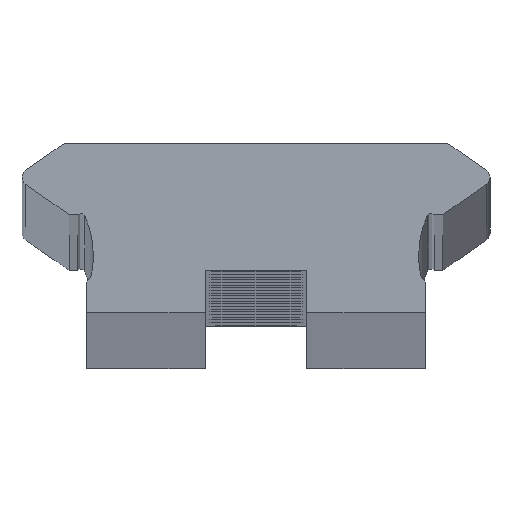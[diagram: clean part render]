
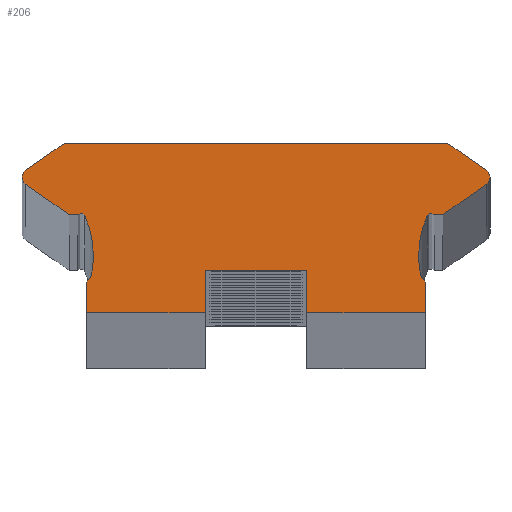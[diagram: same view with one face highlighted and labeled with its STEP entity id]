
A CAD part, top view. The second image highlights one B-rep face of the part: STEP entity #206.
In plain terms, the highlighted planar face has unit normal (0, 0, 1).
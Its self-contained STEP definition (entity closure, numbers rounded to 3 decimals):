
#206=ADVANCED_FACE('',(#534),#535,.T.);
#534=FACE_OUTER_BOUND('',#863,.T.);
#535=PLANE('',#864);
#863=EDGE_LOOP('',(#1868,#1869,#1870,#1871,#1872,#1873,#1874,#1875,#1876,#1877,#1878,#1879,#1880,#1881,#1882,#1883,#1884,#1885,#1886,#1887,#1888,#1889,#1890,#1891,#1892,#1893));
#864=AXIS2_PLACEMENT_3D('',#1894,#1895,#1896);
#1868=ORIENTED_EDGE('',*,*,#2194,.F.);
#1869=ORIENTED_EDGE('',*,*,#2254,.F.);
#1870=ORIENTED_EDGE('',*,*,#2251,.F.);
#1871=ORIENTED_EDGE('',*,*,#1929,.F.);
#1872=ORIENTED_EDGE('',*,*,#2249,.F.);
#1873=ORIENTED_EDGE('',*,*,#2246,.F.);
#1874=ORIENTED_EDGE('',*,*,#2243,.F.);
#1875=ORIENTED_EDGE('',*,*,#1931,.F.);
#1876=ORIENTED_EDGE('',*,*,#2242,.F.);
#1877=ORIENTED_EDGE('',*,*,#2238,.F.);
#1878=ORIENTED_EDGE('',*,*,#2235,.F.);
#1879=ORIENTED_EDGE('',*,*,#2232,.F.);
#1880=ORIENTED_EDGE('',*,*,#2229,.F.);
#1881=ORIENTED_EDGE('',*,*,#1937,.F.);
#1882=ORIENTED_EDGE('',*,*,#2227,.F.);
#1883=ORIENTED_EDGE('',*,*,#2224,.F.);
#1884=ORIENTED_EDGE('',*,*,#2221,.F.);
#1885=ORIENTED_EDGE('',*,*,#2218,.F.);
#1886=ORIENTED_EDGE('',*,*,#2215,.F.);
#1887=ORIENTED_EDGE('',*,*,#2212,.F.);
#1888=ORIENTED_EDGE('',*,*,#2209,.F.);
#1889=ORIENTED_EDGE('',*,*,#2206,.F.);
#1890=ORIENTED_EDGE('',*,*,#2203,.F.);
#1891=ORIENTED_EDGE('',*,*,#1939,.F.);
#1892=ORIENTED_EDGE('',*,*,#2202,.F.);
#1893=ORIENTED_EDGE('',*,*,#2198,.F.);
#1894=CARTESIAN_POINT('',(0.,5.343,1886.0));
#1895=DIRECTION('',(0.0,0.0,1.0));
#1896=DIRECTION('',(1.0,0.0,0.0));
#1929=EDGE_CURVE('',#2261,#2257,#2263,.T.);
#1931=EDGE_CURVE('',#2264,#2267,#2268,.T.);
#1937=EDGE_CURVE('',#2277,#2273,#2279,.T.);
#1939=EDGE_CURVE('',#2280,#2283,#2284,.T.);
#2194=EDGE_CURVE('',#2708,#2709,#2710,.T.);
#2198=EDGE_CURVE('',#2709,#2716,#2717,.T.);
#2202=EDGE_CURVE('',#2716,#2280,#2722,.T.);
#2203=EDGE_CURVE('',#2283,#2723,#2724,.T.);
#2206=EDGE_CURVE('',#2723,#2728,#2729,.T.);
#2209=EDGE_CURVE('',#2728,#2733,#2734,.T.);
#2212=EDGE_CURVE('',#2733,#2738,#2739,.T.);
#2215=EDGE_CURVE('',#2738,#2743,#2744,.T.);
#2218=EDGE_CURVE('',#2743,#2748,#2749,.T.);
#2221=EDGE_CURVE('',#2748,#2753,#2754,.T.);
#2224=EDGE_CURVE('',#2753,#2758,#2759,.T.);
#2227=EDGE_CURVE('',#2758,#2277,#2763,.T.);
#2229=EDGE_CURVE('',#2273,#2765,#2766,.T.);
#2232=EDGE_CURVE('',#2765,#2770,#2771,.T.);
#2235=EDGE_CURVE('',#2770,#2775,#2776,.T.);
#2238=EDGE_CURVE('',#2775,#2780,#2781,.T.);
#2242=EDGE_CURVE('',#2780,#2264,#2786,.T.);
#2243=EDGE_CURVE('',#2267,#2787,#2788,.T.);
#2246=EDGE_CURVE('',#2787,#2792,#2793,.T.);
#2249=EDGE_CURVE('',#2792,#2261,#2797,.T.);
#2251=EDGE_CURVE('',#2257,#2799,#2800,.T.);
#2254=EDGE_CURVE('',#2799,#2708,#2804,.T.);
#2257=VERTEX_POINT('',#2807);
#2261=VERTEX_POINT('',#2812);
#2263=CIRCLE('',#2815,0.5);
#2264=VERTEX_POINT('',#2816);
#2267=VERTEX_POINT('',#2820);
#2268=CIRCLE('',#2821,0.5);
#2273=VERTEX_POINT('',#2827);
#2277=VERTEX_POINT('',#2832);
#2279=CIRCLE('',#2835,5.653);
#2280=VERTEX_POINT('',#2836);
#2283=VERTEX_POINT('',#2840);
#2284=CIRCLE('',#2841,5.653);
#2708=VERTEX_POINT('',#3350);
#2709=VERTEX_POINT('',#3351);
#2710=LINE('',#3352,#3353);
#2716=VERTEX_POINT('',#3362);
#2717=CIRCLE('',#3363,0.253);
#2722=CIRCLE('',#3369,5.653);
#2723=VERTEX_POINT('',#3370);
#2724=CIRCLE('',#3371,0.886);
#2728=VERTEX_POINT('',#3376);
#2729=LINE('',#3377,#3378);
#2733=VERTEX_POINT('',#3384);
#2734=LINE('',#3385,#3386);
#2738=VERTEX_POINT('',#3392);
#2739=LINE('',#3393,#3394);
#2743=VERTEX_POINT('',#3400);
#2744=LINE('',#3401,#3402);
#2748=VERTEX_POINT('',#3408);
#2749=LINE('',#3409,#3410);
#2753=VERTEX_POINT('',#3416);
#2754=LINE('',#3417,#3418);
#2758=VERTEX_POINT('',#3424);
#2759=LINE('',#3425,#3426);
#2763=CIRCLE('',#3432,0.886);
#2765=VERTEX_POINT('',#3434);
#2766=CIRCLE('',#3435,5.653);
#2770=VERTEX_POINT('',#3440);
#2771=CIRCLE('',#3441,0.253);
#2775=VERTEX_POINT('',#3446);
#2776=LINE('',#3447,#3448);
#2780=VERTEX_POINT('',#3454);
#2781=LINE('',#3455,#3456);
#2786=CIRCLE('',#3463,0.5);
#2787=VERTEX_POINT('',#3464);
#2788=LINE('',#3465,#3466);
#2792=VERTEX_POINT('',#3472);
#2793=LINE('',#3473,#3474);
#2797=LINE('',#3480,#3481);
#2799=VERTEX_POINT('',#3484);
#2800=CIRCLE('',#3485,0.5);
#2804=LINE('',#3490,#3491);
#2807=CARTESIAN_POINT('',(13.813,8.,1886.0));
#2812=CARTESIAN_POINT('',(13.6,8.41,1886.0));
#2815=AXIS2_PLACEMENT_3D('',#3499,#3500,#3501);
#2816=CARTESIAN_POINT('',(-13.813,8.,1886.0));
#2820=CARTESIAN_POINT('',(-13.6,8.41,1886.0));
#2821=AXIS2_PLACEMENT_3D('',#3503,#3504,#3505);
#2827=CARTESIAN_POINT('',(-9.6,3.398,1886.0));
#2832=CARTESIAN_POINT('',(-9.701,2.335,1886.0));
#2835=AXIS2_PLACEMENT_3D('',#3515,#3516,#3517);
#2836=CARTESIAN_POINT('',(9.6,3.398,1886.0));
#2840=CARTESIAN_POINT('',(9.701,2.335,1886.0));
#2841=AXIS2_PLACEMENT_3D('',#3519,#3520,#3521);
#3350=CARTESIAN_POINT('',(11.029,5.79,1886.0));
#3351=CARTESIAN_POINT('',(10.525,5.79,1886.0));
#3352=CARTESIAN_POINT('',(10.525,5.79,1886.0));
#3353=VECTOR('',#4114,1.0);
#3362=CARTESIAN_POINT('',(10.108,5.741,1886.0));
#3363=AXIS2_PLACEMENT_3D('',#4118,#4119,#4120);
#3369=AXIS2_PLACEMENT_3D('',#4128,#4129,#4130);
#3370=CARTESIAN_POINT('',(10.0,1.809,1886.0));
#3371=AXIS2_PLACEMENT_3D('',#4131,#4132,#4133);
#3376=CARTESIAN_POINT('',(10.0,0.,1886.0));
#3377=CARTESIAN_POINT('',(10.0,0.,1886.0));
#3378=VECTOR('',#4138,1.0);
#3384=CARTESIAN_POINT('',(3.0,0.0,1886.0));
#3385=CARTESIAN_POINT('',(3.0,0.0,1886.0));
#3386=VECTOR('',#4141,1.0);
#3392=CARTESIAN_POINT('',(3.0,2.5,1886.0));
#3393=CARTESIAN_POINT('',(3.0,2.5,1886.0));
#3394=VECTOR('',#4144,1.0);
#3400=CARTESIAN_POINT('',(-3.0,2.5,1886.0));
#3401=CARTESIAN_POINT('',(-3.0,2.5,1886.0));
#3402=VECTOR('',#4147,1.0);
#3408=CARTESIAN_POINT('',(-3.0,0.0,1886.0));
#3409=CARTESIAN_POINT('',(-3.0,0.0,1886.0));
#3410=VECTOR('',#4150,1.0);
#3416=CARTESIAN_POINT('',(-10.0,0.,1886.0));
#3417=CARTESIAN_POINT('',(-10.0,0.,1886.0));
#3418=VECTOR('',#4153,1.0);
#3424=CARTESIAN_POINT('',(-10.0,1.809,1886.0));
#3425=CARTESIAN_POINT('',(-10.0,1.809,1886.0));
#3426=VECTOR('',#4156,1.0);
#3432=AXIS2_PLACEMENT_3D('',#4159,#4160,#4161);
#3434=CARTESIAN_POINT('',(-10.108,5.741,1886.0));
#3435=AXIS2_PLACEMENT_3D('',#4165,#4166,#4167);
#3440=CARTESIAN_POINT('',(-10.525,5.79,1886.0));
#3441=AXIS2_PLACEMENT_3D('',#4172,#4173,#4174);
#3446=CARTESIAN_POINT('',(-11.029,5.79,1886.0));
#3447=CARTESIAN_POINT('',(-11.029,5.79,1886.0));
#3448=VECTOR('',#4179,1.0);
#3454=CARTESIAN_POINT('',(-13.6,7.59,1886.0));
#3455=CARTESIAN_POINT('',(-13.6,7.59,1886.0));
#3456=VECTOR('',#4182,1.0);
#3463=AXIS2_PLACEMENT_3D('',#4188,#4189,#4190);
#3464=CARTESIAN_POINT('',(-11.329,10.0,1886.0));
#3465=CARTESIAN_POINT('',(-11.329,10.0,1886.0));
#3466=VECTOR('',#4191,1.0);
#3472=CARTESIAN_POINT('',(11.329,10.0,1886.0));
#3473=CARTESIAN_POINT('',(11.329,10.0,1886.0));
#3474=VECTOR('',#4194,1.0);
#3480=CARTESIAN_POINT('',(13.6,8.41,1886.0));
#3481=VECTOR('',#4197,1.0);
#3484=CARTESIAN_POINT('',(13.6,7.59,1886.0));
#3485=AXIS2_PLACEMENT_3D('',#4199,#4200,#4201);
#3490=CARTESIAN_POINT('',(11.029,5.79,1886.0));
#3491=VECTOR('',#4206,1.0);
#3499=CARTESIAN_POINT('',(13.313,8.,1886.0));
#3500=DIRECTION('',(0.0,0.0,-1.0));
#3501=DIRECTION('',(1.0,0.0,0.0));
#3503=CARTESIAN_POINT('',(-13.313,8.,1886.0));
#3504=DIRECTION('',(0.0,0.0,-1.0));
#3505=DIRECTION('',(1.0,0.0,0.0));
#3515=CARTESIAN_POINT('',(-15.254,3.398,1886.0));
#3516=DIRECTION('',(0.0,0.0,1.0));
#3517=DIRECTION('',(1.0,0.0,0.0));
#3519=CARTESIAN_POINT('',(15.254,3.398,1886.0));
#3520=DIRECTION('',(0.0,0.0,1.0));
#3521=DIRECTION('',(1.0,0.0,0.0));
#4114=DIRECTION('',(-1.0,0.,0.0));
#4118=CARTESIAN_POINT('',(10.333,5.626,1886.0));
#4119=DIRECTION('',(0.0,0.0,1.0));
#4120=DIRECTION('',(1.0,0.0,0.0));
#4128=CARTESIAN_POINT('',(15.254,3.398,1886.0));
#4129=DIRECTION('',(0.0,0.0,1.0));
#4130=DIRECTION('',(1.0,0.0,0.0));
#4131=CARTESIAN_POINT('',(10.574,2.483,1886.0));
#4132=DIRECTION('',(0.0,0.0,1.0));
#4133=DIRECTION('',(1.0,0.0,0.0));
#4138=DIRECTION('',(-0.0,-1.0,-0.0));
#4141=DIRECTION('',(-1.0,0.,0.0));
#4144=DIRECTION('',(0.,1.0,0.0));
#4147=DIRECTION('',(-1.0,-0.0,-0.0));
#4150=DIRECTION('',(0.,-1.0,-0.0));
#4153=DIRECTION('',(-1.0,0.,-0.0));
#4156=DIRECTION('',(0.0,1.0,0.0));
#4159=CARTESIAN_POINT('',(-10.574,2.483,1886.0));
#4160=DIRECTION('',(0.0,0.0,1.0));
#4161=DIRECTION('',(1.0,0.0,0.0));
#4165=CARTESIAN_POINT('',(-15.254,3.398,1886.0));
#4166=DIRECTION('',(0.0,0.0,1.0));
#4167=DIRECTION('',(1.0,0.0,0.0));
#4172=CARTESIAN_POINT('',(-10.333,5.626,1886.0));
#4173=DIRECTION('',(0.0,0.0,1.0));
#4174=DIRECTION('',(1.0,0.0,0.0));
#4179=DIRECTION('',(-1.0,0.,-0.0));
#4182=DIRECTION('',(-0.819,0.574,0.0));
#4188=CARTESIAN_POINT('',(-13.313,8.,1886.0));
#4189=DIRECTION('',(0.0,0.0,-1.0));
#4190=DIRECTION('',(1.0,0.0,0.0));
#4191=DIRECTION('',(0.819,0.574,0.0));
#4194=DIRECTION('',(1.0,0.0,0.0));
#4197=DIRECTION('',(0.819,-0.574,0.0));
#4199=CARTESIAN_POINT('',(13.313,8.,1886.0));
#4200=DIRECTION('',(0.0,0.0,-1.0));
#4201=DIRECTION('',(1.0,0.0,0.0));
#4206=DIRECTION('',(-0.819,-0.574,-0.0));
